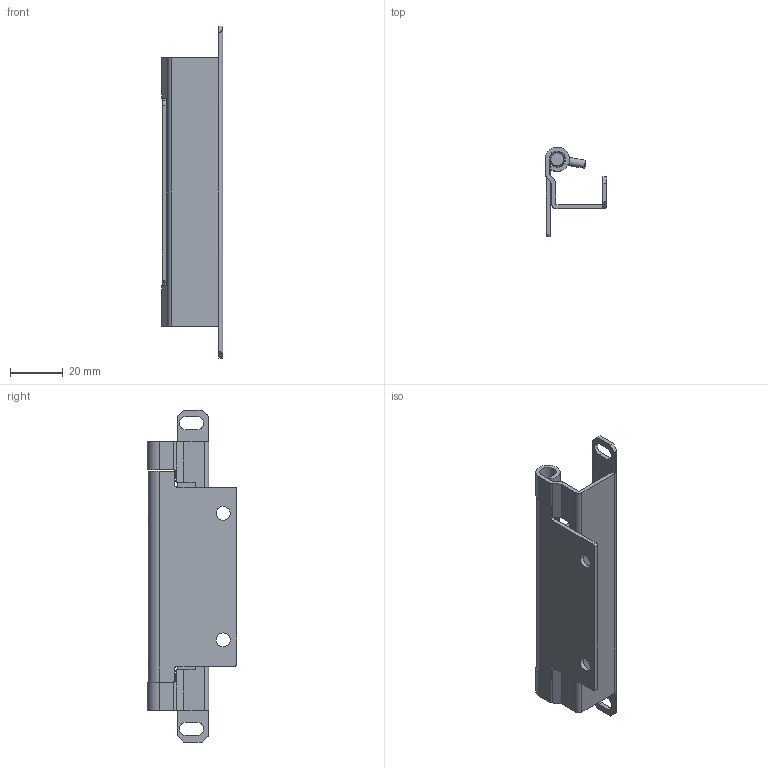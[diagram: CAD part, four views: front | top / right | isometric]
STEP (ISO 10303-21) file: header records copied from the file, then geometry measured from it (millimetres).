
FILE_DESCRIPTION (( 'STEP AP203' ), '1' );
FILE_NAME ('XG02-065-1.STEP', '2023-12-09T03:17:09', ( '' ), ( '' ), 'SwSTEP 2.0', 'SolidWorks 2020', '' );
FILE_SCHEMA (( 'CONFIG_CONTROL_DESIGN' ));
Length unit declared in the file: millimetre
Products named in the file (6): HL042-A; 粟銅; HL042-B; XG02-065-1; HL042; HL042-C
Assembly tree (7 placements, depth 2):
  XG02-065-1
    HL042
    HL042-A
    HL042-B  x2
    HL042-C  x2
    粟銅
Bounding box: 23.4 x 33.95 x 126 mm (x, y, z)
Volume: 13906.8 mm3; surface area: 19228.1 mm2
Topology: 7 solids, 7 shells, 164 faces, 426 edges, 274 vertices
Faces by surface type: plane 72, cylinder 64, cone 16, bspline 12
Entity records: 13087 total; most frequent: CARTESIAN_POINT 8913, ORIENTED_EDGE 756, DIRECTION 696, EDGE_CURVE 378, VERTEX_POINT 246, AXIS2_PLACEMENT_3D 240, LINE 216, VECTOR 216
